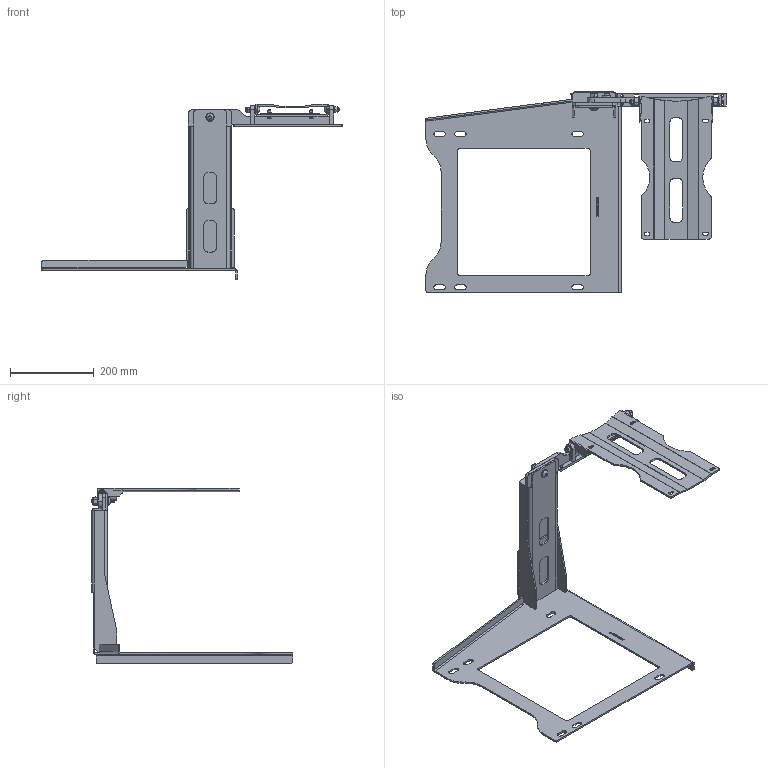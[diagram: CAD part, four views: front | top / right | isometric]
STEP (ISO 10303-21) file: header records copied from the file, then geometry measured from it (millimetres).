
FILE_DESCRIPTION(('STEP AP214'),'1');
FILE_NAME('81TAB001002A_TABLETTE GAUCHE.stp','2026-02-04T10:01:57',(' '),(' '),'Spatial InterOp 3D',' ',' ');
FILE_SCHEMA(('AUTOMOTIVE_DESIGN { 1 0 10303 214 1 1 1 1 }'));
Length unit declared in the file: millimetre
Products named in the file (30): 81TAB001040A_CHASSIS GAUCHE; 81TAB001015A_BUTEE; 81TAB001014B_RENFORT D'AXE; 81TAB001041C_BASSE CHASSIS GAUCHE; 81TAB001013D_MONTANT INTERIEUR; 81TAB001012C_MONTANT EXTERIEURE; 81TAB001002A_TABLETTE GAUCHE; 81TAB001051A_PIVOT ACCOUDOIRE GCHE; 81TAB001204A_PIVOT TABLETTE; 81TAB001203B_CORPS; 81TAB001202A_PLAQUE SUPPERIEURE; 81TAB001050A_ACCOUDOIRE TABLETTE GCHE; 81TAB001033A_OSS. TABLETTE RABATTABLE; 81TAB001303C_CORPS OSSATURE; 81TAB001304B_ARTICULATION OSSATURE; 81TAB001060A_TABLETTE RABATTABLE GAUCHE; 81TAB001032A_BUTEE; Ecrou Noyé Tef FHO Inox; 81TAB001302C_TOLE BUTEE; Vis H Embase Acier Zingué ISO 4161; Rondelle Plate Inox; Vis BHC Acier ISO7380; Ecrou H Autofreiné Acier  ISO 7040; Vis Poussoir à Bille Orientable Sans Tête Avec Fente NORELEM 03000-212; Ecrou Hm Acier Zingué ISO 4035
Assembly tree (39 placements, depth 4):
  81TAB001014B_RENFORT D'AXE
  81TAB001002A_TABLETTE GAUCHE
    81TAB001040A_CHASSIS GAUCHE
      81TAB001015A_BUTEE
      81TAB001041C_BASSE CHASSIS GAUCHE
      81TAB001013D_MONTANT INTERIEUR
      81TAB001012C_MONTANT EXTERIEURE
    81TAB001050A_ACCOUDOIRE TABLETTE GCHE
      81TAB001051A_PIVOT ACCOUDOIRE GCHE
        81TAB001204A_PIVOT TABLETTE  x2
        81TAB001203B_CORPS
        81TAB001202A_PLAQUE SUPPERIEURE
    81TAB001060A_TABLETTE RABATTABLE GAUCHE
      81TAB001033A_OSS. TABLETTE RABATTABLE
        81TAB001303C_CORPS OSSATURE
        81TAB001304B_ARTICULATION OSSATURE
      81TAB001032A_BUTEE
        Ecrou Noyé Tef FHO Inox  x2
        81TAB001302C_TOLE BUTEE
      Vis H Embase Acier Zingué ISO 4161  x2
    Rondelle Plate Inox  x2
    Vis BHC Acier ISO7380
    Ecrou H Autofreiné Acier  ISO 7040
    Rondelle Plate Inox  x6
    Vis BHC Acier ISO7380  x2
    Ecrou H Autofreiné Acier  ISO 7040  x2
    Vis Poussoir à Bille Orientable Sans Tête Avec Fente NORELEM 03000-212
      Vis Poussoir à Bille Orientable Sans Tête Avec Fente NORELEM 03000-212
      Vis Poussoir à Bille Orientable Sans Tête Avec Fente NORELEM 03000-212
    Ecrou Hm Acier Zingué ISO 4035
Bounding box: 719.41 x 481 x 419.01 mm (x, y, z)
Volume: 1329577.1 mm3; surface area: 680798 mm2
Topology: 33 solids, 33 shells, 946 faces, 2619 edges, 1768 vertices
Faces by surface type: plane 591, cylinder 202, cone 74, bspline 53, torus 25, sphere 1
Full cylindrical faces by diameter (mm): 4.2 x2, 5 x2, 5.5 x4, 6 x4, 6.8 x2, 7 x2, 8 x2, 8.2 x4, 8.5 x1, 8.6 x6, 8.9 x2, 10 x2, 10.2 x4, 10.8 x2, 11 x1, 11.2 x2, 12 x1, 13 x2, 16 x7, 20 x2
Entity records: 37106 total; most frequent: CARTESIAN_POINT 7195, ORIENTED_EDGE 4336, DIRECTION 3957, EDGE_CURVE 2168, VERTEX_POINT 1535, LINE 1445, VECTOR 1445, AXIS2_PLACEMENT_3D 1256
